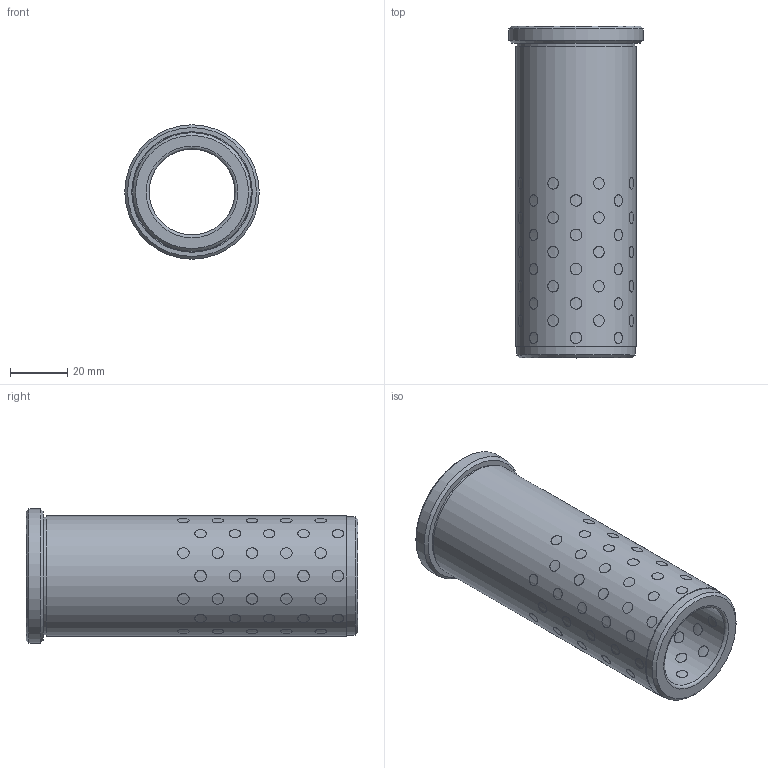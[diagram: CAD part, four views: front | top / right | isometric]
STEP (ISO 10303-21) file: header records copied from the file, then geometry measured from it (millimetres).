
FILE_DESCRIPTION( ( 'STEP AP203' ), '1' );
FILE_NAME( 'D:/Cuma/D30.05/D30.05_30116.step', '2003-01-20T18:22:32', ( ' ' ), ( ' ' ), 'XStep 1.0', ' ', ' ' );
FILE_SCHEMA( ( 'CONFIG_CONTROL_DESIGN' ) );
Length unit declared in the file: metre
Products named in the file (97): 1; 2; 3; 4; 5; 6; 7; 8; 9; 10; 11; 12; 13; 14; 15; 16; 17; 18; 19; 20; 21; 22; 23; 24; 25; 26; 27; 28; 29; 30; 31; 32; 33; 34; 35; 36; 37; 38; 39; 40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
Bounding box: 47 x 116 x 47 mm (x, y, z)
Volume: 87445.7 mm3; surface area: 37777.4 mm2
Topology: 97 solids, 97 shells, 303 faces, 313 edges, 207 vertices
Faces by surface type: cylinder 293, plane 5, cone 3, torus 2
Full cylindrical faces by diameter (mm): 4 x96, 30 x1, 41 x1, 41.5 x1, 42 x1, 47 x1
Entity records: 18977 total; most frequent: CARTESIAN_POINT 10990, DIRECTION 830, CC_DESIGN_PERSON_AND_ORGANIZATION_ASSIGNMENT 485, AXIS2_PLACEMENT_3D 415, EDGE_LOOP 414, ORIENTED_EDGE 414, FACE_OUTER_BOUND 406, PERSON_AND_ORGANIZATION_ROLE 388
